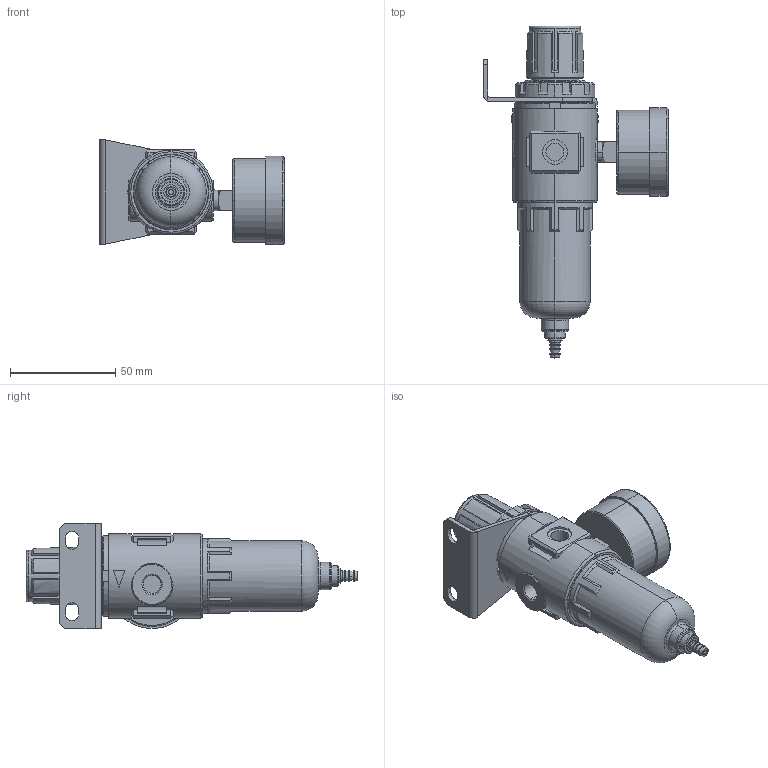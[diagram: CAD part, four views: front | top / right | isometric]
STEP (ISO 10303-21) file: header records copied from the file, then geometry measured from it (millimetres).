
FILE_DESCRIPTION (( 'STEP AP214' ), '1' );
FILE_NAME ('AFR-1500.STEP', '2016-01-21T16:12:29', ( '' ), ( '' ), 'SwSTEP 2.0', 'SolidWorks 2016', '' );
FILE_SCHEMA (( 'AUTOMOTIVE_DESIGN' ));
Length unit declared in the file: millimetre
Products named in the file (6): 1; 5; 2; 4; AFR-1500; 3
Assembly tree (5 placements, depth 2):
  AFR-1500
    1
    2
    3
    4
    5
Bounding box: 88 x 158 x 50 mm (x, y, z)
Volume: 128450.6 mm3; surface area: 43457 mm2
Topology: 5 solids, 5 shells, 808 faces, 2203 edges, 1452 vertices
Faces by surface type: plane 496, cylinder 197, cone 93, torus 22
Entity records: 36176 total; most frequent: CARTESIAN_POINT 6394, ORIENTED_EDGE 4406, DIRECTION 4237, EDGE_CURVE 2203, VERTEX_POINT 1452, VECTOR 1429, LINE 1429, AXIS2_PLACEMENT_3D 1404
